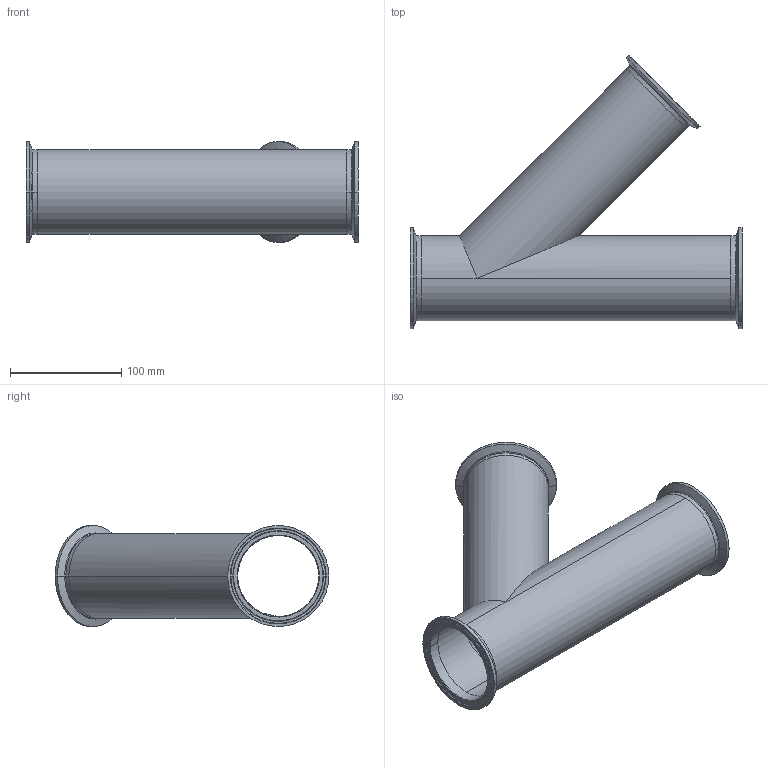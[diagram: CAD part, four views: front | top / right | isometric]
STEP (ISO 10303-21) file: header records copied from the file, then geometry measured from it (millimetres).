
FILE_DESCRIPTION (( 'STEP AP214' ), '1' );
FILE_NAME ('TEG28A6L3.0-...STEP', '2016-05-25T04:38:07', ( 'eran' ), ( '' ), 'SwSTEP 2.0', 'SolidWorks 2016', '' );
FILE_SCHEMA (( 'AUTOMOTIVE_DESIGN' ));
Length unit declared in the file: millimetre
Products named in the file (1): TEG28A6L3.0-..
Bounding box: 298.5 x 245.96 x 90.91 mm (x, y, z)
Volume: 204428.4 mm3; surface area: 234000.5 mm2
Topology: 4 solids, 4 shells, 88 faces, 208 edges, 130 vertices
Faces by surface type: bspline 30, cylinder 28, cone 18, plane 12
Entity records: 4591 total; most frequent: CARTESIAN_POINT 2543, DIRECTION 434, ORIENTED_EDGE 416, EDGE_CURVE 208, AXIS2_PLACEMENT_3D 193, CIRCLE 134, VERTEX_POINT 130, EDGE_LOOP 100
